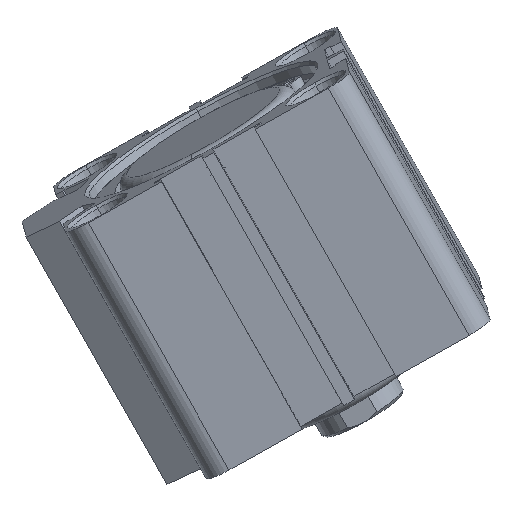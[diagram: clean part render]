
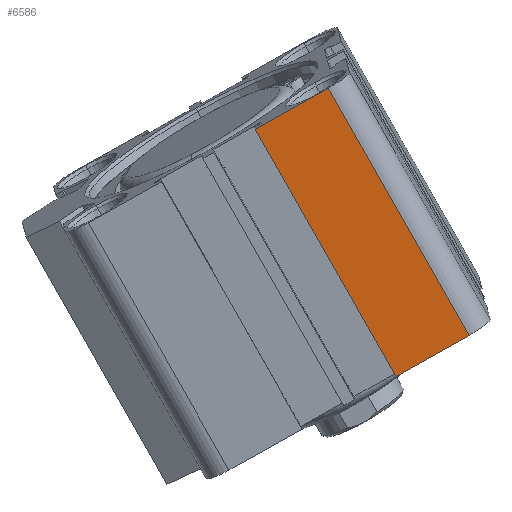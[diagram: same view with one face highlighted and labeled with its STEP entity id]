
A CAD part, left-side view. The second image highlights one B-rep face of the part: STEP entity #6586.
In plain terms, the highlighted planar face has unit normal (-0.987, -0.042, -0.158) as drawn and (-1, 0, 0) by its records, which use the part's own axes.
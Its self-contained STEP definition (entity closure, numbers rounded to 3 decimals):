
#16 = CARTESIAN_POINT ( 'NONE',  ( -26., -22., 46. ) ) ;
#299 = AXIS2_PLACEMENT_3D ( 'NONE', #3091, #12280, #600 ) ;
#600 = DIRECTION ( 'NONE',  ( 0., 0., 1. ) ) ;
#735 = VECTOR ( 'NONE', #10951, 1000. ) ;
#1075 = LINE ( 'NONE', #13752, #735 ) ;
#1611 = EDGE_CURVE ( 'NONE', #16276, #12260, #4687, .T. ) ;
#2274 = CARTESIAN_POINT ( 'NONE',  ( -26., -22., 46. ) ) ;
#2712 = VECTOR ( 'NONE', #8251, 1000. ) ;
#3091 = CARTESIAN_POINT ( 'NONE',  ( -26., 0., 46. ) ) ;
#3199 = EDGE_CURVE ( 'NONE', #12260, #14959, #8488, .T. ) ;
#3905 = ORIENTED_EDGE ( 'NONE', *, *, #3199, .T. ) ;
#4370 = CARTESIAN_POINT ( 'NONE',  ( -26., -8.6, 46. ) ) ;
#4687 = LINE ( 'NONE', #13273, #16155 ) ;
#5653 = CARTESIAN_POINT ( 'NONE',  ( -26., -22., 0. ) ) ;
#6586 = ADVANCED_FACE ( 'NONE', ( #8783 ), #11306, .T. ) ;
#7569 = CARTESIAN_POINT ( 'NONE',  ( -26., -8.6, 46. ) ) ;
#7835 = DIRECTION ( 'NONE',  ( 0., 0., -1. ) ) ;
#8235 = DIRECTION ( 'NONE',  ( 0., 1., 0. ) ) ;
#8251 = DIRECTION ( 'NONE',  ( 0., 0., -1. ) ) ;
#8488 = LINE ( 'NONE', #4370, #2712 ) ;
#8609 = EDGE_LOOP ( 'NONE', ( #9329, #9097, #11129, #3905 ) ) ;
#8783 = FACE_OUTER_BOUND ( 'NONE', #8609, .T. ) ;
#9089 = EDGE_CURVE ( 'NONE', #14749, #14959, #1075, .T. ) ;
#9097 = ORIENTED_EDGE ( 'NONE', *, *, #12569, .F. ) ;
#9329 = ORIENTED_EDGE ( 'NONE', *, *, #9089, .F. ) ;
#10951 = DIRECTION ( 'NONE',  ( 0., 1., 0. ) ) ;
#11129 = ORIENTED_EDGE ( 'NONE', *, *, #1611, .T. ) ;
#11306 = PLANE ( 'NONE',  #299 ) ;
#11870 = CARTESIAN_POINT ( 'NONE',  ( -26., -8.6, 0. ) ) ;
#12260 = VERTEX_POINT ( 'NONE', #7569 ) ;
#12280 = DIRECTION ( 'NONE',  ( -1., 0., 0. ) ) ;
#12569 = EDGE_CURVE ( 'NONE', #16276, #14749, #13624, .T. ) ;
#13273 = CARTESIAN_POINT ( 'NONE',  ( -26., 0., 46. ) ) ;
#13600 = VECTOR ( 'NONE', #7835, 1000. ) ;
#13624 = LINE ( 'NONE', #2274, #13600 ) ;
#13752 = CARTESIAN_POINT ( 'NONE',  ( -26., 0., 0. ) ) ;
#14749 = VERTEX_POINT ( 'NONE', #5653 ) ;
#14959 = VERTEX_POINT ( 'NONE', #11870 ) ;
#16155 = VECTOR ( 'NONE', #8235, 1000. ) ;
#16276 = VERTEX_POINT ( 'NONE', #16 ) ;
